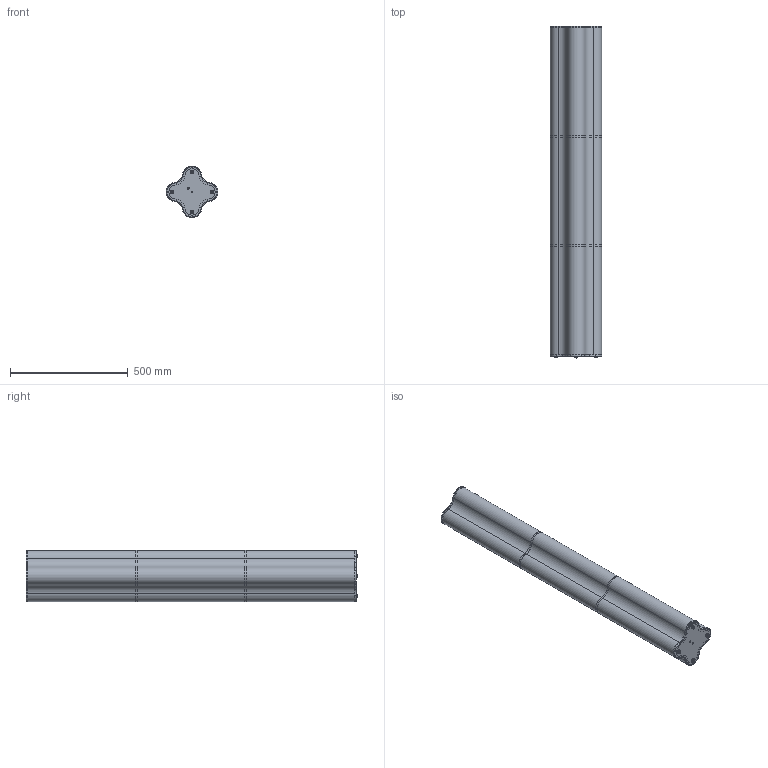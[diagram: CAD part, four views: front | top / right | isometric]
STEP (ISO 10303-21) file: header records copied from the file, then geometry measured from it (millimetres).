
FILE_DESCRIPTION (( 'STEP AP203' ), '1' );
FILE_NAME ('EQ.P140_EQUIS PEU 22X140CM_FORMA.STEP', '2025-07-08T11:51:13', ( '' ), ( '' ), 'SwSTEP 2.0', 'SolidWorks 2013', '' );
FILE_SCHEMA (( 'CONFIG_CONTROL_DESIGN' ));
Length unit declared in the file: millimetre
Products named in the file (7): ME006_EQUIS-TAPA SUPERIOR ALUMINI_220x220; ME014_Marc suport pantalla Equis_chapa 0.8mm; TP476_EQUIS_pantalla 1400mm; ME005_EQUIS-BASE INFERIOR ALUMINI 220x220; MS052_POTES-10089958_Ø15.9x7.1mm; EQ.P140_EQUIS PEU 22X140CM_FORMA; XJ001_Xapa logo inox_10,5x28,5
Assembly tree (10 placements, depth 2):
  EQ.P140_EQUIS PEU 22X140CM_FORMA
    ME005_EQUIS-BASE INFERIOR ALUMINI 220x220
    MS052_POTES-10089958_Ø15.9x7.1mm  x4
    TP476_EQUIS_pantalla 1400mm
    ME006_EQUIS-TAPA SUPERIOR ALUMINI_220x220
    XJ001_Xapa logo inox_10,5x28,5
    ME014_Marc suport pantalla Equis_chapa 0.8mm  x2
Bounding box: 219.71 x 1410.1 x 220 mm (x, y, z)
Volume: 3133398.4 mm3; surface area: 2013686.1 mm2
Topology: 10 solids, 10 shells, 337 faces, 845 edges, 551 vertices
Faces by surface type: cylinder 147, plane 106, bspline 54, cone 30
Entity records: 9777 total; most frequent: CARTESIAN_POINT 2149, ORIENTED_EDGE 1426, DIRECTION 1396, EDGE_CURVE 713, AXIS2_PLACEMENT_3D 514, VERTEX_POINT 467, VECTOR 368, LINE 368
